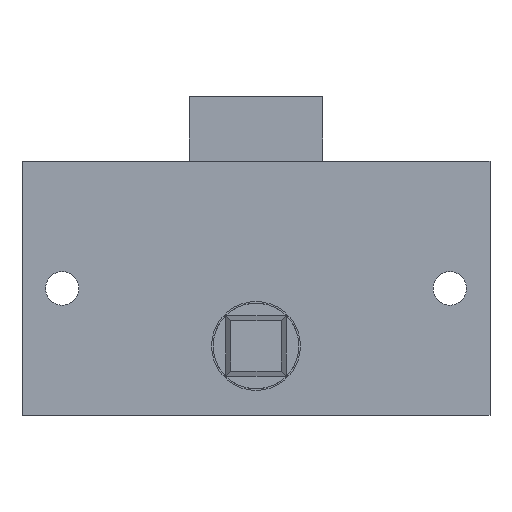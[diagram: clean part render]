
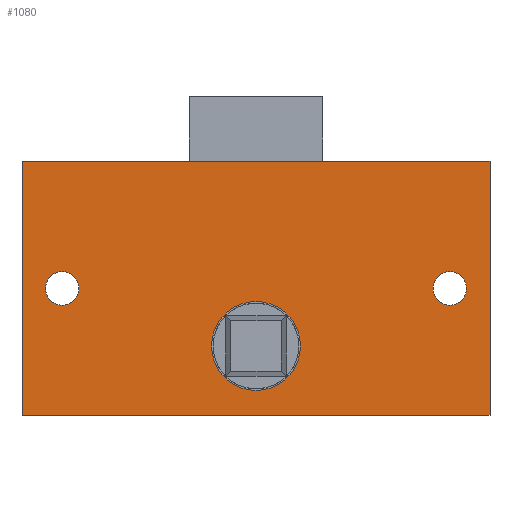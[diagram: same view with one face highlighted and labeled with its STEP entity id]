
A CAD part, front view. The second image highlights one B-rep face of the part: STEP entity #1080.
In plain terms, the highlighted planar face has unit normal (0, -1, 0).
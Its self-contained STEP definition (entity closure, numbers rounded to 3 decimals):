
#72 = DIRECTION ( 'NONE',  ( 0., 0., 1. ) ) ;
#144 = CARTESIAN_POINT ( 'NONE',  ( -35., 0., 19. ) ) ;
#168 = EDGE_CURVE ( 'NONE', #982, #6630, #6582, .T. ) ;
#328 = DIRECTION ( 'NONE',  ( 0., 0., 1. ) ) ;
#487 = CIRCLE ( 'NONE', #7267, 2.5 ) ;
#583 = AXIS2_PLACEMENT_3D ( 'NONE', #6826, #6750, #4298 ) ;
#605 = AXIS2_PLACEMENT_3D ( 'NONE', #4747, #6034, #328 ) ;
#662 = EDGE_CURVE ( 'NONE', #8231, #7748, #3895, .T. ) ;
#723 = VERTEX_POINT ( 'NONE', #6241 ) ;
#752 = DIRECTION ( 'NONE',  ( 0., 1., 0. ) ) ;
#827 = CARTESIAN_POINT ( 'NONE',  ( 29., 0., -2.5 ) ) ;
#982 = VERTEX_POINT ( 'NONE', #827 ) ;
#1040 = FACE_BOUND ( 'NONE', #4992, .T. ) ;
#1041 = VERTEX_POINT ( 'NONE', #5375 ) ;
#1080 = ADVANCED_FACE ( 'NONE', ( #2332, #8104, #1040, #6079 ), #2404, .F. ) ;
#1337 = CIRCLE ( 'NONE', #4542, 2.5 ) ;
#1451 = VERTEX_POINT ( 'NONE', #2652 ) ;
#1652 = EDGE_CURVE ( 'NONE', #1451, #7576, #6027, .T. ) ;
#1887 = EDGE_CURVE ( 'NONE', #1041, #4413, #5532, .T. ) ;
#2154 = CARTESIAN_POINT ( 'NONE',  ( 0., 0., -8.6 ) ) ;
#2290 = DIRECTION ( 'NONE',  ( 0., 0., -1. ) ) ;
#2332 = FACE_BOUND ( 'NONE', #6916, .T. ) ;
#2346 = CARTESIAN_POINT ( 'NONE',  ( 29., 0., 0. ) ) ;
#2351 = CARTESIAN_POINT ( 'NONE',  ( 29., 0., 2.5 ) ) ;
#2404 = PLANE ( 'NONE',  #5582 ) ;
#2410 = CARTESIAN_POINT ( 'NONE',  ( -29., 0., 0. ) ) ;
#2530 = DIRECTION ( 'NONE',  ( -1., 0., 0. ) ) ;
#2585 = EDGE_LOOP ( 'NONE', ( #5708, #8077 ) ) ;
#2652 = CARTESIAN_POINT ( 'NONE',  ( 35., 0., 19. ) ) ;
#2836 = ORIENTED_EDGE ( 'NONE', *, *, #1887, .T. ) ;
#3452 = CIRCLE ( 'NONE', #5709, 6.65 ) ;
#3520 = EDGE_CURVE ( 'NONE', #4413, #1041, #487, .T. ) ;
#3529 = DIRECTION ( 'NONE',  ( 0., 0., 1. ) ) ;
#3567 = CARTESIAN_POINT ( 'NONE',  ( 0., 0., -1.95 ) ) ;
#3649 = ORIENTED_EDGE ( 'NONE', *, *, #7754, .F. ) ;
#3675 = LINE ( 'NONE', #6767, #7680 ) ;
#3813 = CARTESIAN_POINT ( 'NONE',  ( 0., 0., -15.25 ) ) ;
#3895 = CIRCLE ( 'NONE', #583, 6.65 ) ;
#4253 = EDGE_CURVE ( 'NONE', #723, #7956, #6598, .T. ) ;
#4270 = DIRECTION ( 'NONE',  ( 0., 0., 1. ) ) ;
#4298 = DIRECTION ( 'NONE',  ( 0., 0., 1. ) ) ;
#4300 = ORIENTED_EDGE ( 'NONE', *, *, #1652, .F. ) ;
#4413 = VERTEX_POINT ( 'NONE', #6219 ) ;
#4419 = ORIENTED_EDGE ( 'NONE', *, *, #4253, .F. ) ;
#4538 = VECTOR ( 'NONE', #6512, 1000. ) ;
#4542 = AXIS2_PLACEMENT_3D ( 'NONE', #2346, #752, #72 ) ;
#4730 = ORIENTED_EDGE ( 'NONE', *, *, #7509, .T. ) ;
#4747 = CARTESIAN_POINT ( 'NONE',  ( -29., 0., 0. ) ) ;
#4773 = EDGE_CURVE ( 'NONE', #6630, #982, #1337, .T. ) ;
#4951 = EDGE_LOOP ( 'NONE', ( #4419, #3649, #4300, #6871 ) ) ;
#4955 = DIRECTION ( 'NONE',  ( 0., 1., 0. ) ) ;
#4960 = DIRECTION ( 'NONE',  ( 0., 1., 0. ) ) ;
#4992 = EDGE_LOOP ( 'NONE', ( #6854, #4730 ) ) ;
#5051 = VECTOR ( 'NONE', #2530, 1000. ) ;
#5375 = CARTESIAN_POINT ( 'NONE',  ( -29., 0., 2.5 ) ) ;
#5458 = CARTESIAN_POINT ( 'NONE',  ( -35., 0., 19. ) ) ;
#5532 = CIRCLE ( 'NONE', #605, 2.5 ) ;
#5582 = AXIS2_PLACEMENT_3D ( 'NONE', #5458, #4955, #7992 ) ;
#5708 = ORIENTED_EDGE ( 'NONE', *, *, #4773, .T. ) ;
#5709 = AXIS2_PLACEMENT_3D ( 'NONE', #2154, #6697, #3529 ) ;
#6027 = LINE ( 'NONE', #7283, #6187 ) ;
#6034 = DIRECTION ( 'NONE',  ( 0., 1., 0. ) ) ;
#6079 = FACE_OUTER_BOUND ( 'NONE', #4951, .T. ) ;
#6187 = VECTOR ( 'NONE', #2290, 1000. ) ;
#6219 = CARTESIAN_POINT ( 'NONE',  ( -29., 0., -2.5 ) ) ;
#6241 = CARTESIAN_POINT ( 'NONE',  ( -35., 0., -19. ) ) ;
#6354 = LINE ( 'NONE', #7608, #5051 ) ;
#6512 = DIRECTION ( 'NONE',  ( 0., 0., 1. ) ) ;
#6582 = CIRCLE ( 'NONE', #8045, 2.5 ) ;
#6598 = LINE ( 'NONE', #6643, #4538 ) ;
#6613 = EDGE_CURVE ( 'NONE', #7956, #1451, #3675, .T. ) ;
#6630 = VERTEX_POINT ( 'NONE', #2351 ) ;
#6643 = CARTESIAN_POINT ( 'NONE',  ( -35., 0., -19. ) ) ;
#6697 = DIRECTION ( 'NONE',  ( 0., 1., 0. ) ) ;
#6750 = DIRECTION ( 'NONE',  ( 0., 1., 0. ) ) ;
#6767 = CARTESIAN_POINT ( 'NONE',  ( -35., 0., 19. ) ) ;
#6826 = CARTESIAN_POINT ( 'NONE',  ( 0., 0., -8.6 ) ) ;
#6854 = ORIENTED_EDGE ( 'NONE', *, *, #662, .T. ) ;
#6871 = ORIENTED_EDGE ( 'NONE', *, *, #6613, .F. ) ;
#6877 = CARTESIAN_POINT ( 'NONE',  ( 29., 0., 0. ) ) ;
#6916 = EDGE_LOOP ( 'NONE', ( #2836, #7345 ) ) ;
#7267 = AXIS2_PLACEMENT_3D ( 'NONE', #2410, #4960, #7491 ) ;
#7283 = CARTESIAN_POINT ( 'NONE',  ( 35., 0., -19. ) ) ;
#7345 = ORIENTED_EDGE ( 'NONE', *, *, #3520, .T. ) ;
#7491 = DIRECTION ( 'NONE',  ( 0., 0., 1. ) ) ;
#7506 = DIRECTION ( 'NONE',  ( 0., 1., 0. ) ) ;
#7509 = EDGE_CURVE ( 'NONE', #7748, #8231, #3452, .T. ) ;
#7576 = VERTEX_POINT ( 'NONE', #7942 ) ;
#7608 = CARTESIAN_POINT ( 'NONE',  ( -35., 0., -19. ) ) ;
#7680 = VECTOR ( 'NONE', #8129, 1000. ) ;
#7748 = VERTEX_POINT ( 'NONE', #3813 ) ;
#7754 = EDGE_CURVE ( 'NONE', #7576, #723, #6354, .T. ) ;
#7942 = CARTESIAN_POINT ( 'NONE',  ( 35., 0., -19. ) ) ;
#7956 = VERTEX_POINT ( 'NONE', #144 ) ;
#7992 = DIRECTION ( 'NONE',  ( 0., 0., 1. ) ) ;
#8045 = AXIS2_PLACEMENT_3D ( 'NONE', #6877, #7506, #4270 ) ;
#8077 = ORIENTED_EDGE ( 'NONE', *, *, #168, .T. ) ;
#8104 = FACE_BOUND ( 'NONE', #2585, .T. ) ;
#8129 = DIRECTION ( 'NONE',  ( 1., 0., 0. ) ) ;
#8231 = VERTEX_POINT ( 'NONE', #3567 ) ;
